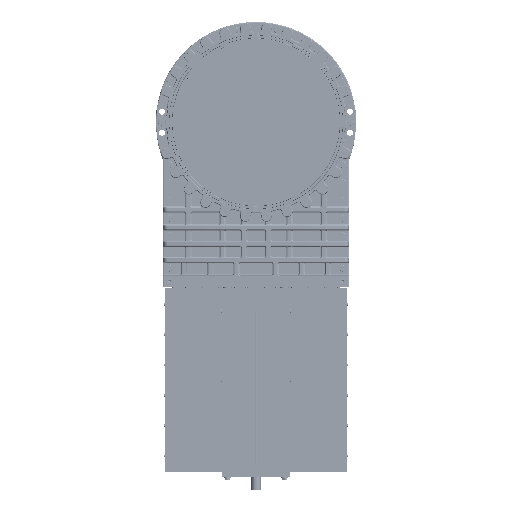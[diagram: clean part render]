
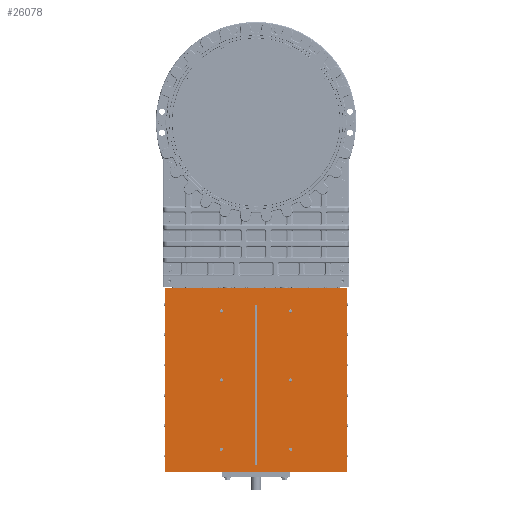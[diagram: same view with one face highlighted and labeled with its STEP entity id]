
A CAD part, top view. The second image highlights one B-rep face of the part: STEP entity #26078.
In plain terms, the highlighted planar face has unit normal (0, 0, 1).
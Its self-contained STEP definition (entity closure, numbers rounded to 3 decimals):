
#26078=ADVANCED_FACE('',(#31395,#31396,#31397,#31398,#31399,#31400,#31401,
#31402),#28601,.T.);
#28601=PLANE('',#103948);
#31395=FACE_BOUND('',#38034,.T.);
#31396=FACE_BOUND('',#38035,.T.);
#31397=FACE_BOUND('',#38036,.T.);
#31398=FACE_BOUND('',#38037,.T.);
#31399=FACE_BOUND('',#38038,.T.);
#31400=FACE_BOUND('',#38039,.T.);
#31401=FACE_BOUND('',#38040,.T.);
#31402=FACE_BOUND('',#38041,.T.);
#38034=EDGE_LOOP('',(#64439));
#38035=EDGE_LOOP('',(#64440));
#38036=EDGE_LOOP('',(#64441));
#38037=EDGE_LOOP('',(#64442));
#38038=EDGE_LOOP('',(#64443));
#38039=EDGE_LOOP('',(#64444));
#38040=EDGE_LOOP('',(#64445,#64446,#64447,#64448));
#38041=EDGE_LOOP('',(#64449,#64450,#64451,#64452,#64453,#64454));
#45681=CIRCLE('',#103940,10.);
#45682=CIRCLE('',#103941,10.);
#45683=CIRCLE('',#103942,10.);
#45684=CIRCLE('',#103943,10.);
#45685=CIRCLE('',#103944,10.);
#45686=CIRCLE('',#103945,10.);
#45687=CIRCLE('',#103946,5.);
#45688=CIRCLE('',#103947,5.);
#64439=ORIENTED_EDGE('',*,*,#84036,.T.);
#64440=ORIENTED_EDGE('',*,*,#84037,.T.);
#64441=ORIENTED_EDGE('',*,*,#84038,.T.);
#64442=ORIENTED_EDGE('',*,*,#84039,.T.);
#64443=ORIENTED_EDGE('',*,*,#84040,.T.);
#64444=ORIENTED_EDGE('',*,*,#84041,.T.);
#64445=ORIENTED_EDGE('',*,*,#84042,.F.);
#64446=ORIENTED_EDGE('',*,*,#84043,.F.);
#64447=ORIENTED_EDGE('',*,*,#84044,.F.);
#64448=ORIENTED_EDGE('',*,*,#84045,.T.);
#64449=ORIENTED_EDGE('',*,*,#84046,.T.);
#64450=ORIENTED_EDGE('',*,*,#84047,.F.);
#64451=ORIENTED_EDGE('',*,*,#84048,.T.);
#64452=ORIENTED_EDGE('',*,*,#75333,.T.);
#64453=ORIENTED_EDGE('',*,*,#84049,.T.);
#64454=ORIENTED_EDGE('',*,*,#84050,.F.);
#68230=VERTEX_POINT('',#130928);
#68231=VERTEX_POINT('',#130929);
#73762=VERTEX_POINT('',#174233);
#73763=VERTEX_POINT('',#174235);
#73764=VERTEX_POINT('',#174237);
#73765=VERTEX_POINT('',#174239);
#73766=VERTEX_POINT('',#174241);
#73767=VERTEX_POINT('',#174243);
#73768=VERTEX_POINT('',#174245);
#73769=VERTEX_POINT('',#174246);
#73770=VERTEX_POINT('',#174248);
#73771=VERTEX_POINT('',#174250);
#73772=VERTEX_POINT('',#174253);
#73773=VERTEX_POINT('',#174254);
#73774=VERTEX_POINT('',#174256);
#73775=VERTEX_POINT('',#174259);
#75333=EDGE_CURVE('',#68230,#68231,#85693,.T.);
#84036=EDGE_CURVE('',#73762,#73762,#45681,.T.);
#84037=EDGE_CURVE('',#73763,#73763,#45682,.T.);
#84038=EDGE_CURVE('',#73764,#73764,#45683,.T.);
#84039=EDGE_CURVE('',#73765,#73765,#45684,.T.);
#84040=EDGE_CURVE('',#73766,#73766,#45685,.T.);
#84041=EDGE_CURVE('',#73767,#73767,#45686,.T.);
#84042=EDGE_CURVE('',#73768,#73769,#45687,.T.);
#84043=EDGE_CURVE('',#73770,#73768,#88910,.T.);
#84044=EDGE_CURVE('',#73771,#73770,#45688,.T.);
#84045=EDGE_CURVE('',#73771,#73769,#88911,.T.);
#84046=EDGE_CURVE('',#73772,#73773,#88912,.T.);
#84047=EDGE_CURVE('',#73774,#73773,#88913,.T.);
#84048=EDGE_CURVE('',#73774,#68230,#88914,.T.);
#84049=EDGE_CURVE('',#68231,#73775,#88915,.T.);
#84050=EDGE_CURVE('',#73772,#73775,#88916,.T.);
#85693=LINE('',#130927,#89489);
#88910=LINE('',#174247,#92706);
#88911=LINE('',#174251,#92707);
#88912=LINE('',#174252,#92708);
#88913=LINE('',#174255,#92709);
#88914=LINE('',#174257,#92710);
#88915=LINE('',#174258,#92711);
#88916=LINE('',#174260,#92712);
#89489=VECTOR('',#106464,1.);
#92706=VECTOR('',#125809,1.);
#92707=VECTOR('',#125812,1.);
#92708=VECTOR('',#125813,1.);
#92709=VECTOR('',#125814,1.);
#92710=VECTOR('',#125815,1.);
#92711=VECTOR('',#125816,1.);
#92712=VECTOR('',#125817,1.);
#103940=AXIS2_PLACEMENT_3D('',#174232,#125795,#125796);
#103941=AXIS2_PLACEMENT_3D('',#174234,#125797,#125798);
#103942=AXIS2_PLACEMENT_3D('',#174236,#125799,#125800);
#103943=AXIS2_PLACEMENT_3D('',#174238,#125801,#125802);
#103944=AXIS2_PLACEMENT_3D('',#174240,#125803,#125804);
#103945=AXIS2_PLACEMENT_3D('',#174242,#125805,#125806);
#103946=AXIS2_PLACEMENT_3D('',#174244,#125807,#125808);
#103947=AXIS2_PLACEMENT_3D('',#174249,#125810,#125811);
#103948=AXIS2_PLACEMENT_3D('',#174261,#125818,#125819);
#106464=DIRECTION('',(1.,0.,0.));
#125795=DIRECTION('',(0.,0.,-1.));
#125796=DIRECTION('',(1.,0.,0.));
#125797=DIRECTION('',(0.,0.,-1.));
#125798=DIRECTION('',(0.,1.,0.));
#125799=DIRECTION('',(0.,0.,-1.));
#125800=DIRECTION('',(1.,0.,0.));
#125801=DIRECTION('',(0.,0.,-1.));
#125802=DIRECTION('',(1.,0.,0.));
#125803=DIRECTION('',(0.,0.,-1.));
#125804=DIRECTION('',(0.,1.,0.));
#125805=DIRECTION('',(0.,0.,-1.));
#125806=DIRECTION('',(0.,1.,0.));
#125807=DIRECTION('',(0.,0.,1.));
#125808=DIRECTION('',(1.,0.,0.));
#125809=DIRECTION('',(0.,1.,0.));
#125810=DIRECTION('',(0.,0.,1.));
#125811=DIRECTION('',(1.,0.,0.));
#125812=DIRECTION('',(0.,1.,0.));
#125813=DIRECTION('',(-1.,0.,0.));
#125814=DIRECTION('',(0.,1.,0.));
#125815=DIRECTION('',(1.,0.,0.));
#125816=DIRECTION('',(1.,0.,0.));
#125817=DIRECTION('',(0.,-1.,0.));
#125818=DIRECTION('',(0.,0.,1.));
#125819=DIRECTION('',(1.,0.,0.));
#130927=CARTESIAN_POINT('',(0.,-2144.,125.));
#130928=CARTESIAN_POINT('',(-210.,-2144.,125.));
#130929=CARTESIAN_POINT('',(210.,-2144.,125.));
#174232=CARTESIAN_POINT('',(212.,-1580.5,125.));
#174233=CARTESIAN_POINT('',(222.,-1580.5,125.));
#174234=CARTESIAN_POINT('',(-212.,-2004.,125.));
#174235=CARTESIAN_POINT('',(-212.,-1994.,125.));
#174236=CARTESIAN_POINT('',(212.,-2004.,125.));
#174237=CARTESIAN_POINT('',(222.,-2004.,125.));
#174238=CARTESIAN_POINT('',(212.,-1157.,125.));
#174239=CARTESIAN_POINT('',(222.,-1157.,125.));
#174240=CARTESIAN_POINT('',(-212.,-1157.,125.));
#174241=CARTESIAN_POINT('',(-212.,-1147.,125.));
#174242=CARTESIAN_POINT('',(-212.,-1580.5,125.));
#174243=CARTESIAN_POINT('',(-212.,-1570.5,125.));
#174244=CARTESIAN_POINT('',(0.,-1122.,125.));
#174245=CARTESIAN_POINT('',(5.,-1122.,125.));
#174246=CARTESIAN_POINT('',(-5.,-1122.,125.));
#174247=CARTESIAN_POINT('',(5.,-1625.5,125.));
#174248=CARTESIAN_POINT('',(5.,-2099.,125.));
#174249=CARTESIAN_POINT('',(0.,-2099.,125.));
#174250=CARTESIAN_POINT('',(-5.,-2099.,125.));
#174251=CARTESIAN_POINT('',(-5.,-1625.5,125.));
#174252=CARTESIAN_POINT('',(0.,-1017.,125.));
#174253=CARTESIAN_POINT('',(555.5,-1017.,125.));
#174254=CARTESIAN_POINT('',(-555.5,-1017.,125.));
#174255=CARTESIAN_POINT('',(-555.5,-1625.5,125.));
#174256=CARTESIAN_POINT('',(-555.5,-2144.,125.));
#174257=CARTESIAN_POINT('',(0.,-2144.,125.));
#174258=CARTESIAN_POINT('',(0.,-2144.,125.));
#174259=CARTESIAN_POINT('',(555.5,-2144.,125.));
#174260=CARTESIAN_POINT('',(555.5,-1625.5,125.));
#174261=CARTESIAN_POINT('',(0.,-1625.5,125.));
